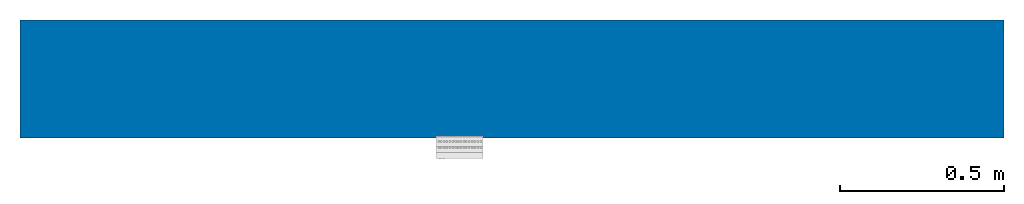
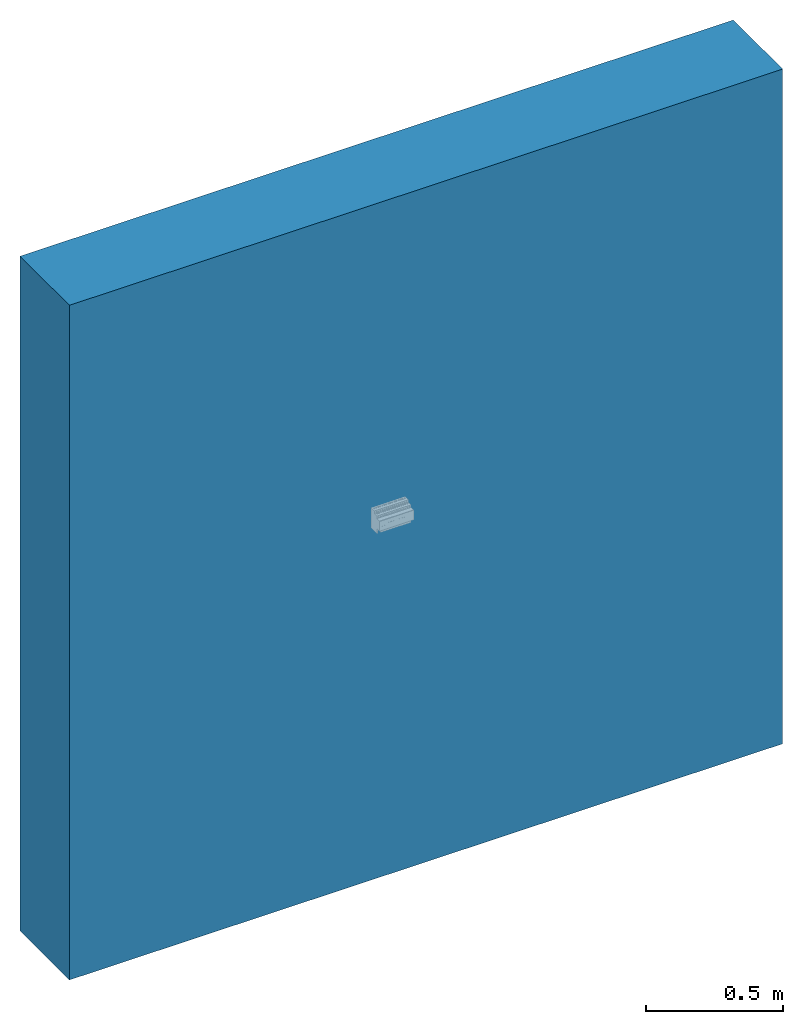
# One storey, incomplete: 1 wall.
"""IFC2X3 building model written with IfcOpenShell, lengths in metres."""

from ifc_helpers import new_model, entity, si_unit, converted_unit, derived_unit, direction, frame, frame_2d, origin, place, context, subcontext, project, spatial, rectangle, extrude, material, layer, layer_set, layer_usage, type_object, element, save


model = new_model("IFC2X3")

# Units and contexts
model_context = context("Model", 3, precision=1e-05, world=origin(), true_north=direction((6.12303176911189e-17, 1.0)))
body_context = subcontext(model_context, "Body", "Model", "MODEL_VIEW")
ifc_project = project(units=[si_unit("LENGTHUNIT", "METRE"), si_unit("AREAUNIT", "SQUARE_METRE"), si_unit("VOLUMEUNIT", "CUBIC_METRE"), converted_unit("PLANEANGLEUNIT", "DEGREE", entity("IfcRatioMeasure", 0.0174532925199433), si_unit("PLANEANGLEUNIT", "RADIAN"), dimensions=[0, 0, 0, 0, 0, 0, 0]), si_unit("MASSUNIT", "GRAM", prefix="KILO"), si_unit("TIMEUNIT", "SECOND"), si_unit("FREQUENCYUNIT", "HERTZ"), si_unit("THERMODYNAMICTEMPERATUREUNIT", "DEGREE_CELSIUS"), derived_unit("THERMALTRANSMITTANCEUNIT", [(si_unit("MASSUNIT", "GRAM", prefix="KILO"), 1), (si_unit("THERMODYNAMICTEMPERATUREUNIT", "KELVIN"), -1), (si_unit("TIMEUNIT", "SECOND"), -3)]), derived_unit("VOLUMETRICFLOWRATEUNIT", [(si_unit("LENGTHUNIT", "METRE"), 3), (si_unit("TIMEUNIT", "SECOND"), -1)]), si_unit("ELECTRICCURRENTUNIT", "AMPERE"), si_unit("ELECTRICVOLTAGEUNIT", "VOLT"), si_unit("POWERUNIT", "WATT"), si_unit("FORCEUNIT", "NEWTON", prefix="KILO"), si_unit("ILLUMINANCEUNIT", "LUX"), si_unit("LUMINOUSFLUXUNIT", "LUMEN"), si_unit("LUMINOUSINTENSITYUNIT", "CANDELA"), derived_unit("USERDEFINED", [(si_unit("MASSUNIT", "GRAM", prefix="KILO"), -1), (si_unit("LENGTHUNIT", "METRE"), -2), (si_unit("TIMEUNIT", "SECOND"), 3), (si_unit("LUMINOUSFLUXUNIT", "LUMEN"), 1)]), derived_unit("LINEARVELOCITYUNIT", [(si_unit("LENGTHUNIT", "METRE"), 1), (si_unit("TIMEUNIT", "SECOND"), -1)]), si_unit("PRESSUREUNIT", "PASCAL"), derived_unit("USERDEFINED", [(si_unit("LENGTHUNIT", "METRE"), -2), (si_unit("MASSUNIT", "GRAM", prefix="KILO"), 1), (si_unit("TIMEUNIT", "SECOND"), -2)])], contexts=[model_context])

# Site, building, storey
site_placement = place(None, origin())
site = spatial("IfcSite", under=ifc_project, at=site_placement, Name="Default", CompositionType="ELEMENT")
building_placement = place(site_placement, origin())
building = spatial("IfcBuilding", under=site, at=building_placement, CompositionType="ELEMENT")
storey_placement = place(building_placement, origin())
storey = spatial("IfcBuildingStorey", under=building, at=storey_placement, Name="Ebene 0", CompositionType="ELEMENT", Elevation=0.0)

# Wall
ifc_material_1 = material(Name="Wärmedämmung - hart")
ifc_layer_1 = layer(ifc_material_1, 0.12)
ifc_material_2 = material(Name="Mauerwerk - Ziegel, verputzt")
ifc_layer_2 = layer(ifc_material_2, 0.24)
ifc_layer_set = layer_set([ifc_layer_1, ifc_layer_2], Name="Basiswand:MW 24.0 WD 12.0")
ifc_layer_usage = layer_usage(ifc_layer_set, "AXIS2", "NEGATIVE", 0.18)
wall_type = type_object("IfcWallType", Name="Basiswand:MW 24.0 WD 12.0", PredefinedType="STANDARD", material=ifc_layer_set)
wall_placement = place(storey_placement, frame((-3.93500368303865, -0.613302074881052, 0.0)))
element("IfcWallStandardCase", 1, at=wall_placement, inside=storey, type_object=wall_type, material=ifc_layer_usage, Name="Basiswand:MW 24.0 WD 12.0", ObjectType="Basiswand:MW 24.0 WD 12.0:3900", context=body_context, shape_type="SweptSolid", body=[
    extrude(rectangle(XDim=3.0, YDim=0.36, at=frame_2d((1.5, 0.0), x_axis=(-1.0, 0.0))), origin(), (0.0, 0.0, 1.0), 3.0),
])

save(model, "model.ifc")
